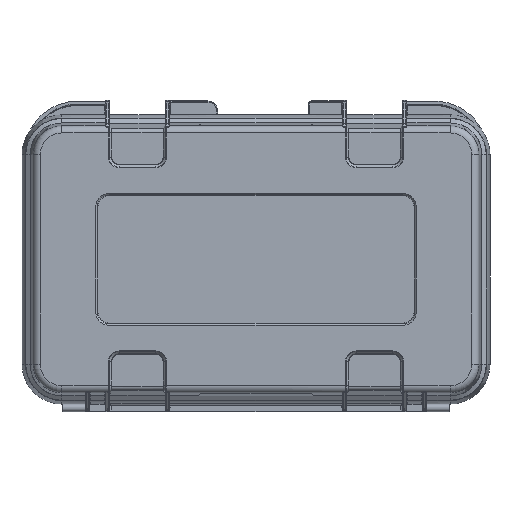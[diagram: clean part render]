
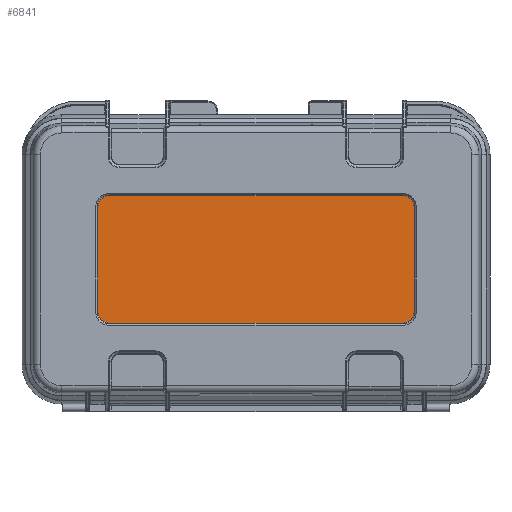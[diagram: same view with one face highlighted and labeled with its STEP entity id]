
A CAD part, top view. The second image highlights one B-rep face of the part: STEP entity #6841.
In plain terms, the highlighted planar face has unit normal (0, 0, 1).
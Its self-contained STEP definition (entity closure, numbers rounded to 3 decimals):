
#1863=CIRCLE('',#50833,12.586);
#1867=CIRCLE('',#50839,12.586);
#1872=CIRCLE('',#50849,12.586);
#1876=CIRCLE('',#50855,12.586);
#5953=PLANE('',#50864);
#6841=ADVANCED_FACE('',(#10812),#5953,.F.);
#10812=FACE_OUTER_BOUND('',#13959,.T.);
#13959=EDGE_LOOP('',(#19229,#19230,#19231,#19232,#19233,#19234,#19235,#19236));
#19229=ORIENTED_EDGE('',*,*,#38684,.T.);
#19230=ORIENTED_EDGE('',*,*,#38663,.F.);
#19231=ORIENTED_EDGE('',*,*,#38660,.F.);
#19232=ORIENTED_EDGE('',*,*,#38657,.F.);
#19233=ORIENTED_EDGE('',*,*,#38671,.T.);
#19234=ORIENTED_EDGE('',*,*,#38675,.T.);
#19235=ORIENTED_EDGE('',*,*,#38678,.T.);
#19236=ORIENTED_EDGE('',*,*,#38681,.T.);
#33929=VERTEX_POINT('',#75348);
#33931=VERTEX_POINT('',#75352);
#33933=VERTEX_POINT('',#75357);
#33935=VERTEX_POINT('',#75363);
#33940=VERTEX_POINT('',#75382);
#33943=VERTEX_POINT('',#75389);
#33945=VERTEX_POINT('',#75395);
#33947=VERTEX_POINT('',#75401);
#38657=EDGE_CURVE('',#33931,#33929,#1863,.T.);
#38660=EDGE_CURVE('',#33929,#33933,#45587,.T.);
#38663=EDGE_CURVE('',#33933,#33935,#1867,.T.);
#38671=EDGE_CURVE('',#33931,#33940,#45593,.T.);
#38675=EDGE_CURVE('',#33940,#33943,#1872,.T.);
#38678=EDGE_CURVE('',#33943,#33945,#45595,.T.);
#38681=EDGE_CURVE('',#33945,#33947,#1876,.T.);
#38684=EDGE_CURVE('',#33947,#33935,#45598,.T.);
#45587=LINE('',#75359,#48225);
#45593=LINE('',#75381,#48231);
#45595=LINE('',#75396,#48233);
#45598=LINE('',#75406,#48236);
#48225=VECTOR('',#55943,1.);
#48231=VECTOR('',#55969,1.);
#48233=VECTOR('',#55985,1.);
#48236=VECTOR('',#55998,1.);
#50833=AXIS2_PLACEMENT_3D('',#75353,#55936,#55937);
#50839=AXIS2_PLACEMENT_3D('',#75365,#55950,#55951);
#50849=AXIS2_PLACEMENT_3D('',#75390,#55977,#55978);
#50855=AXIS2_PLACEMENT_3D('',#75402,#55991,#55992);
#50864=AXIS2_PLACEMENT_3D('',#75422,#56016,#56017);
#55936=DIRECTION('',(0.,0.,-1.));
#55937=DIRECTION('',(-1.,0.,0.));
#55943=DIRECTION('',(0.,-1.,0.));
#55950=DIRECTION('',(0.,0.,-1.));
#55951=DIRECTION('',(-1.,0.,0.));
#55969=DIRECTION('',(-1.,0.,0.));
#55977=DIRECTION('',(0.,0.,1.));
#55978=DIRECTION('',(-1.,0.,0.));
#55985=DIRECTION('',(0.,-1.,0.));
#55991=DIRECTION('',(0.,0.,1.));
#55992=DIRECTION('',(-1.,0.,0.));
#55998=DIRECTION('',(1.,0.,0.));
#56016=DIRECTION('',(0.,0.,-1.));
#56017=DIRECTION('',(-1.,0.,0.));
#75348=CARTESIAN_POINT('',(167.586,212.25,58.5));
#75352=CARTESIAN_POINT('',(155.,224.836,58.5));
#75353=CARTESIAN_POINT('',(155.,212.25,58.5));
#75357=CARTESIAN_POINT('',(167.586,102.25,58.5));
#75359=CARTESIAN_POINT('',(167.586,87.25,58.5));
#75363=CARTESIAN_POINT('',(155.,89.664,58.5));
#75365=CARTESIAN_POINT('',(155.,102.25,58.5));
#75381=CARTESIAN_POINT('',(-170.,224.836,58.5));
#75382=CARTESIAN_POINT('',(-155.,224.836,58.5));
#75389=CARTESIAN_POINT('',(-167.586,212.25,58.5));
#75390=CARTESIAN_POINT('',(-155.,212.25,58.5));
#75395=CARTESIAN_POINT('',(-167.586,102.25,58.5));
#75396=CARTESIAN_POINT('',(-167.586,87.25,58.5));
#75401=CARTESIAN_POINT('',(-155.,89.664,58.5));
#75402=CARTESIAN_POINT('',(-155.,102.25,58.5));
#75406=CARTESIAN_POINT('',(-170.,89.664,58.5));
#75422=CARTESIAN_POINT('',(-170.,87.25,58.5));
